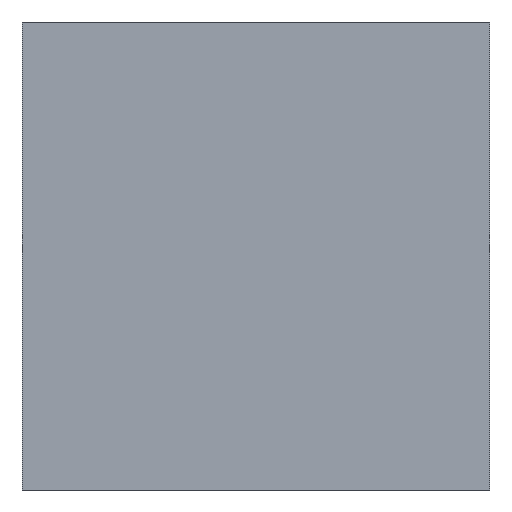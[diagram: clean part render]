
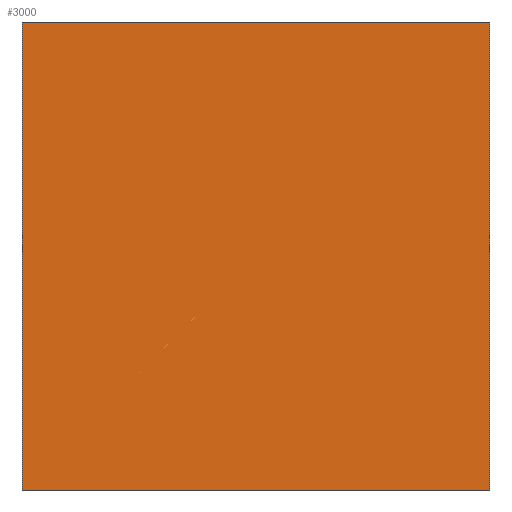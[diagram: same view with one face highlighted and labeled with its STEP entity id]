
A CAD part, front view. The second image highlights one B-rep face of the part: STEP entity #3000.
In plain terms, the highlighted planar face has unit normal (0, -1, 0).
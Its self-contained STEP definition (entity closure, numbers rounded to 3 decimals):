
#301 = DIRECTION ( 'NONE',  ( 0., 0., -1. ) ) ;
#484 = CARTESIAN_POINT ( 'NONE',  ( 10., -3.34, -10. ) ) ;
#1517 = AXIS2_PLACEMENT_3D ( 'NONE', #29881, #13079, #35583 ) ;
#1900 = CARTESIAN_POINT ( 'NONE',  ( 10., -3.34, 10. ) ) ;
#3000 = ADVANCED_FACE ( 'NONE', ( #21771 ), #4187, .F. ) ;
#3618 = ORIENTED_EDGE ( 'NONE', *, *, #34340, .F. ) ;
#4187 = PLANE ( 'NONE',  #1517 ) ;
#5131 = VECTOR ( 'NONE', #23187, 1000. ) ;
#5547 = VECTOR ( 'NONE', #301, 1000. ) ;
#6541 = EDGE_CURVE ( 'NONE', #26536, #28818, #14693, .T. ) ;
#10257 = CARTESIAN_POINT ( 'NONE',  ( 10., -3.34, -10. ) ) ;
#11911 = CARTESIAN_POINT ( 'NONE',  ( -10., -3.34, -10. ) ) ;
#12617 = CARTESIAN_POINT ( 'NONE',  ( -10., -3.34, -10. ) ) ;
#13079 = DIRECTION ( 'NONE',  ( 0., 1., 0. ) ) ;
#14693 = LINE ( 'NONE', #11911, #5131 ) ;
#15059 = CARTESIAN_POINT ( 'NONE',  ( -10., -3.34, 10. ) ) ;
#15222 = ORIENTED_EDGE ( 'NONE', *, *, #25841, .F. ) ;
#16289 = LINE ( 'NONE', #21484, #35134 ) ;
#19540 = LINE ( 'NONE', #484, #5547 ) ;
#20446 = LINE ( 'NONE', #15059, #27560 ) ;
#20800 = DIRECTION ( 'NONE',  ( 1., 0., 0. ) ) ;
#21484 = CARTESIAN_POINT ( 'NONE',  ( -10., -3.34, -10. ) ) ;
#21771 = FACE_OUTER_BOUND ( 'NONE', #26238, .T. ) ;
#22140 = ORIENTED_EDGE ( 'NONE', *, *, #25545, .F. ) ;
#23168 = ORIENTED_EDGE ( 'NONE', *, *, #6541, .F. ) ;
#23187 = DIRECTION ( 'NONE',  ( 0., 0., 1. ) ) ;
#25545 = EDGE_CURVE ( 'NONE', #28818, #35211, #20446, .T. ) ;
#25841 = EDGE_CURVE ( 'NONE', #29022, #26536, #16289, .T. ) ;
#26238 = EDGE_LOOP ( 'NONE', ( #3618, #22140, #23168, #15222 ) ) ;
#26536 = VERTEX_POINT ( 'NONE', #12617 ) ;
#27560 = VECTOR ( 'NONE', #20800, 1000. ) ;
#28818 = VERTEX_POINT ( 'NONE', #29467 ) ;
#29022 = VERTEX_POINT ( 'NONE', #10257 ) ;
#29467 = CARTESIAN_POINT ( 'NONE',  ( -10., -3.34, 10. ) ) ;
#29881 = CARTESIAN_POINT ( 'NONE',  ( 0., -3.34, 0. ) ) ;
#32716 = DIRECTION ( 'NONE',  ( -1., 0., 0. ) ) ;
#34340 = EDGE_CURVE ( 'NONE', #35211, #29022, #19540, .T. ) ;
#35134 = VECTOR ( 'NONE', #32716, 1000. ) ;
#35211 = VERTEX_POINT ( 'NONE', #1900 ) ;
#35583 = DIRECTION ( 'NONE',  ( 0., 0., 1. ) ) ;
